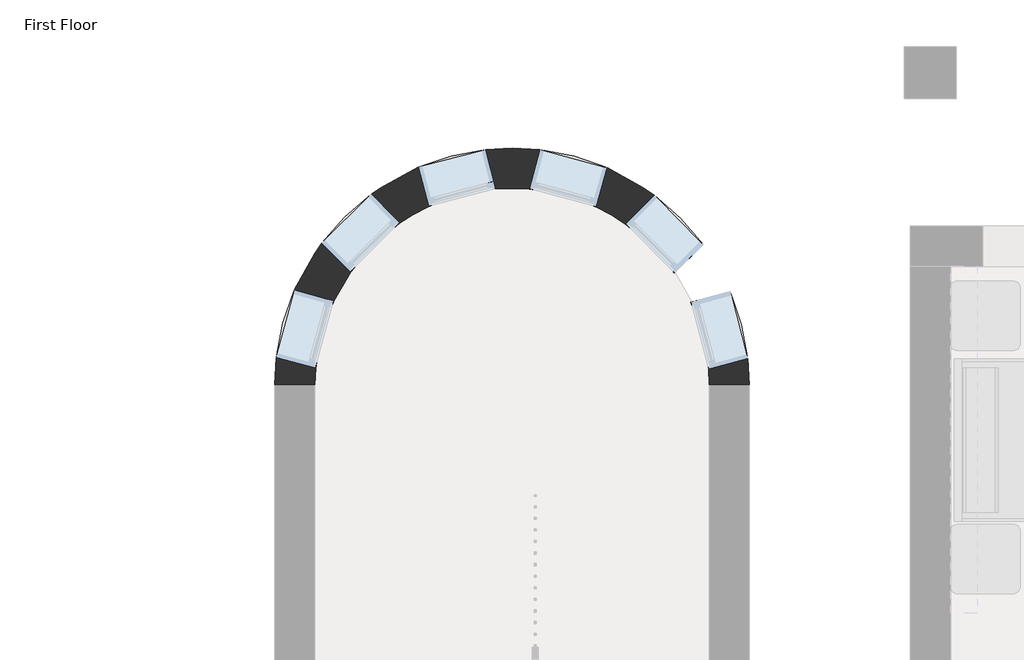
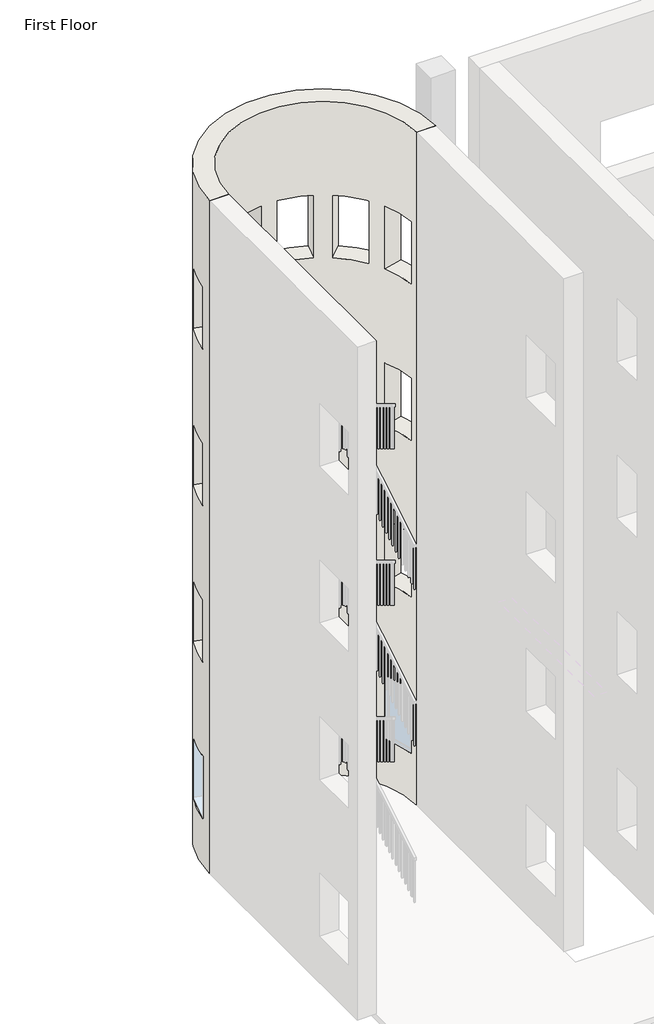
# One storey, part 4 of 8: 1 wall.
"""IFC4 building model written with IfcOpenShell, lengths in millimetres."""

from ifc_helpers import new_model, si_unit, frame, origin, place, context, project, spatial, polyline, circle_curve, element, save
from ifc_brep_helpers import plane_surface, cylinder_surface, revolved_surface, advanced_brep

model = new_model("IFC4")

# Units and contexts
model_context = context("Model", 3, world=origin())
ifc_project = project(units=[si_unit("LENGTHUNIT", "METRE", prefix="MILLI")], contexts=[model_context])

# Site, building, storey
site = spatial("IfcSite", under=ifc_project)
building = spatial("IfcBuilding", under=site)
storey = spatial("IfcBuildingStorey", under=building, Name="First Floor", Elevation=0.0)

# Wall
placement = place(None, origin())
element("IfcWall", 1, ObjectType="Exterior - Brick on Mtl. Stud", at=placement, inside=storey, context=model_context, shape_type="AdvancedBrep", body=[
    advanced_brep(
    [(-12980.9589563, 9227.0316867, 13106.4), (-17143.3839563, 9227.0316867, 13106.4), (-16790.9589563, 9227.0316867, 13106.4), (-13333.3839563, 9227.0316867, 13106.4), (-17143.3839563, 9227.0316867, 0.0), (-12980.9589563, 9227.0316867, 0.0), (-13333.3839563, 9227.0316867, 0.0), (-16790.9589563, 9227.0316867, 0.0), (-13149.9261748, 10048.4715527, 8229.6), (-13149.9261748, 10048.4715527, 7010.4), (-12993.9452701, 9459.1650812, 7010.4), (-12993.9452701, 9459.1650812, 8229.6), (-13816.8383973, 10894.5421191, 8229.6), (-13816.8383973, 10894.5421191, 7010.4), (-13387.1017356, 10462.1781965, 7010.4), (-13387.1017356, 10462.1781965, 8229.6), (-14817.4366072, 11293.8046118, 8229.6), (-14817.4366072, 11293.8046118, 7010.4), (-14229.0917799, 11134.234802, 7010.4), (-14229.0917799, 11134.234802, 8229.6), (-15883.6113224, 11139.2769682, 8229.6), (-15883.6113224, 11139.2769682, 7010.4), (-15294.3048508, 11295.2578729, 7010.4), (-15294.3048508, 11295.2578729, 8229.6), (-16729.6818887, 10472.3647457, 8229.6), (-16729.6818887, 10472.3647457, 7010.4), (-16297.3179661, 10902.1014074, 7010.4), (-16297.3179661, 10902.1014074, 8229.6), (-17128.9443814, 9471.7665358, 8229.6), (-17128.9443814, 9471.7665358, 7010.4), (-16969.3745716, 10060.1113631, 7010.4), (-16969.3745716, 10060.1113631, 8229.6), (-13149.9261748, 10048.4715527, 5181.6), (-13149.9261748, 10048.4715527, 3962.4), (-12993.9452701, 9459.1650812, 3962.4), (-12993.9452701, 9459.1650812, 5181.6), (-13816.8383973, 10894.5421191, 5181.6), (-13816.8383973, 10894.5421191, 3962.4), (-13387.1017356, 10462.1781965, 3962.4), (-13387.1017356, 10462.1781965, 5181.6), (-14817.4366072, 11293.8046118, 5181.6), (-14817.4366072, 11293.8046118, 3962.4), (-14229.0917799, 11134.234802, 3962.4), (-14229.0917799, 11134.234802, 5181.6), (-15883.6113224, 11139.2769682, 5181.6), (-15883.6113224, 11139.2769682, 3962.4), (-15294.3048508, 11295.2578729, 3962.4), (-15294.3048508, 11295.2578729, 5181.6), (-16729.6818887, 10472.3647457, 5181.6), (-16729.6818887, 10472.3647457, 3962.4), (-16297.3179661, 10902.1014074, 3962.4), (-16297.3179661, 10902.1014074, 5181.6), (-17128.9443814, 9471.7665358, 5181.6), (-17128.9443814, 9471.7665358, 3962.4), (-16969.3745716, 10060.1113631, 3962.4), (-16969.3745716, 10060.1113631, 5181.6), (-13149.9261748, 10048.4715527, 11277.6), (-13149.9261748, 10048.4715527, 10058.4), (-12993.9452701, 9459.1650812, 10058.4), (-12993.9452701, 9459.1650812, 11277.6), (-13816.8383973, 10894.5421191, 11277.6), (-13816.8383973, 10894.5421191, 10058.4), (-13387.1017356, 10462.1781965, 10058.4), (-13387.1017356, 10462.1781965, 11277.6), (-14817.4366072, 11293.8046118, 11277.6), (-14817.4366072, 11293.8046118, 10058.4), (-14229.0917799, 11134.234802, 10058.4), (-14229.0917799, 11134.234802, 11277.6), (-15883.6113224, 11139.2769682, 11277.6), (-15883.6113224, 11139.2769682, 10058.4), (-15294.3048508, 11295.2578729, 10058.4), (-15294.3048508, 11295.2578729, 11277.6), (-16729.6818887, 10472.3647457, 11277.6), (-16729.6818887, 10472.3647457, 10058.4), (-16297.3179661, 10902.1014074, 10058.4), (-16297.3179661, 10902.1014074, 11277.6), (-17128.9443814, 9471.7665358, 11277.6), (-17128.9443814, 9471.7665358, 10058.4), (-16969.3745716, 10060.1113631, 10058.4), (-16969.3745716, 10060.1113631, 11277.6), (-13149.9261748, 10048.4715527, 2133.6), (-13149.9261748, 10048.4715527, 914.4), (-12993.9452701, 9459.1650812, 914.4), (-12993.9452701, 9459.1650812, 2133.6), (-13816.8383973, 10894.5421191, 2133.6), (-13816.8383973, 10894.5421191, 914.4), (-13387.1017356, 10462.1781965, 914.4), (-13387.1017356, 10462.1781965, 2133.6), (-14817.4366072, 11293.8046118, 2133.6), (-14817.4366072, 11293.8046118, 914.4), (-14229.0917799, 11134.234802, 914.4), (-14229.0917799, 11134.234802, 2133.6), (-15883.6113224, 11139.2769682, 2133.6), (-15883.6113224, 11139.2769682, 914.4), (-15294.3048508, 11295.2578729, 914.4), (-15294.3048508, 11295.2578729, 2133.6), (-16729.6818887, 10472.3647457, 2133.6), (-16729.6818887, 10472.3647457, 914.4), (-16297.3179661, 10902.1014074, 914.4), (-16297.3179661, 10902.1014074, 2133.6), (-17128.9443814, 9471.7665358, 914.4), (-16969.3745716, 10060.1113631, 914.4), (-16969.3745716, 10060.1113631, 2133.6), (-17128.9443814, 9471.7665358, 2133.6), (-13495.1055834, 9957.1075528, 7010.4), (-13495.1055834, 9957.1075528, 8229.6), (-13339.1246787, 9367.8010813, 8229.6), (-13339.1246787, 9367.8010813, 7010.4), (-14070.090534, 10642.8288698, 7010.4), (-14070.090534, 10642.8288698, 8229.6), (-13640.3538723, 10210.4649472, 8229.6), (-13640.3538723, 10210.4649472, 7010.4), (-14910.9027666, 10949.188475, 7010.4), (-14910.9027666, 10949.188475, 8229.6), (-14322.5579393, 10789.6186653, 8229.6), (-14322.5579393, 10789.6186653, 7010.4), (-15792.2473224, 10794.0975596, 7010.4), (-15792.2473224, 10794.0975596, 8229.6), (-15202.9408509, 10950.0784643, 8229.6), (-15202.9408509, 10950.0784643, 7010.4), (-16477.9686395, 10219.112609, 7010.4), (-16477.9686395, 10219.112609, 8229.6), (-16045.6047169, 10648.8492707, 8229.6), (-16045.6047169, 10648.8492707, 7010.4), (-16784.3282447, 9378.3003764, 7010.4), (-16784.3282447, 9378.3003764, 8229.6), (-16624.7584349, 9966.6452037, 8229.6), (-16624.7584349, 9966.6452037, 7010.4), (-13495.1055834, 9957.1075528, 3962.4), (-13495.1055834, 9957.1075528, 5181.6), (-13339.1246787, 9367.8010813, 5181.6), (-13339.1246787, 9367.8010813, 3962.4), (-14070.090534, 10642.8288698, 3962.4), (-14070.090534, 10642.8288698, 5181.6), (-13640.3538723, 10210.4649472, 5181.6), (-13640.3538723, 10210.4649472, 3962.4), (-14910.9027666, 10949.188475, 3962.4), (-14910.9027666, 10949.188475, 5181.6), (-14322.5579393, 10789.6186653, 5181.6), (-14322.5579393, 10789.6186653, 3962.4), (-15792.2473224, 10794.0975596, 3962.4), (-15792.2473224, 10794.0975596, 5181.6), (-15202.9408509, 10950.0784643, 5181.6), (-15202.9408509, 10950.0784643, 3962.4), (-16477.9686395, 10219.112609, 3962.4), (-16477.9686395, 10219.112609, 5181.6), (-16045.6047169, 10648.8492707, 5181.6), (-16045.6047169, 10648.8492707, 3962.4), (-16784.3282447, 9378.3003764, 3962.4), (-16784.3282447, 9378.3003764, 5181.6), (-16624.7584349, 9966.6452037, 5181.6), (-16624.7584349, 9966.6452037, 3962.4), (-13495.1055834, 9957.1075528, 10058.4), (-13495.1055834, 9957.1075528, 11277.6), (-13339.1246787, 9367.8010813, 11277.6), (-13339.1246787, 9367.8010813, 10058.4), (-14070.090534, 10642.8288698, 10058.4), (-14070.090534, 10642.8288698, 11277.6), (-13640.3538723, 10210.4649472, 11277.6), (-13640.3538723, 10210.4649472, 10058.4), (-14910.9027666, 10949.188475, 10058.4), (-14910.9027666, 10949.188475, 11277.6), (-14322.5579393, 10789.6186653, 11277.6), (-14322.5579393, 10789.6186653, 10058.4), (-15792.2473224, 10794.0975596, 10058.4), (-15792.2473224, 10794.0975596, 11277.6), (-15202.9408509, 10950.0784643, 11277.6), (-15202.9408509, 10950.0784643, 10058.4), (-16477.9686395, 10219.112609, 10058.4), (-16477.9686395, 10219.112609, 11277.6), (-16045.6047169, 10648.8492707, 11277.6), (-16045.6047169, 10648.8492707, 10058.4), (-16784.3282447, 9378.3003764, 10058.4), (-16784.3282447, 9378.3003764, 11277.6), (-16624.7584349, 9966.6452037, 11277.6), (-16624.7584349, 9966.6452037, 10058.4), (-13495.1055834, 9957.1075528, 914.4), (-13495.1055834, 9957.1075528, 2133.6), (-13339.1246787, 9367.8010813, 2133.6), (-13339.1246787, 9367.8010813, 914.4), (-14070.090534, 10642.8288698, 914.4), (-14070.090534, 10642.8288698, 2133.6), (-13640.3538723, 10210.4649472, 2133.6), (-13640.3538723, 10210.4649472, 914.4), (-14910.9027666, 10949.188475, 914.4), (-14910.9027666, 10949.188475, 2133.6), (-14322.5579393, 10789.6186653, 2133.6), (-14322.5579393, 10789.6186653, 914.4), (-15792.2473224, 10794.0975596, 914.4), (-15792.2473224, 10794.0975596, 2133.6), (-15202.9408509, 10950.0784643, 2133.6), (-15202.9408509, 10950.0784643, 914.4), (-16477.9686395, 10219.112609, 914.4), (-16477.9686395, 10219.112609, 2133.6), (-16045.6047169, 10648.8492707, 2133.6), (-16045.6047169, 10648.8492707, 914.4), (-16624.7584349, 9966.6452037, 914.4), (-16784.3282447, 9378.3003764, 914.4), (-16784.3282447, 9378.3003764, 2133.6), (-16624.7584349, 9966.6452037, 2133.6)],
    [
        (0, 1, circle_curve(frame((-15062.1714563, 9227.0316867, 13106.4), z_axis=(0.0, 0.0, 1.0), x_axis=(1.0, 0.0, 0.0)), 2081.2125)),
        (1, 2),
        (2, 3, circle_curve(frame((-15062.1714563, 9227.0316867, 13106.4), z_axis=(0.0, 0.0, -1.0), x_axis=(1.0, 0.0, 0.0)), 1728.7875)),
        (3, 0),
        (4, 5, circle_curve(frame((-15062.1714563, 9227.0316867, 0.0), z_axis=(0.0, 0.0, -1.0), x_axis=(1.0, 0.0, 0.0)), 2081.2125)),
        (5, 6),
        (6, 7, circle_curve(frame((-15062.1714563, 9227.0316867, 0.0), z_axis=(0.0, 0.0, 1.0), x_axis=(1.0, 0.0, 0.0)), 1728.7875)),
        (7, 4),
        (0, 5),
        (4, 1),
        (8, 9),
        (9, 10, circle_curve(frame((-15062.1714563, 9227.0316867, 7010.4), z_axis=(0.0, 0.0, -1.0), x_axis=(1.0, 0.0, 0.0)), 2081.2125)),
        (10, 11),
        (11, 8, circle_curve(frame((-15062.1714563, 9227.0316867, 8229.6), z_axis=(0.0, 0.0, 1.0), x_axis=(1.0, 0.0, 0.0)), 2081.2125)),
        (12, 13),
        (13, 14, circle_curve(frame((-15062.1714563, 9227.0316867, 7010.4), z_axis=(0.0, 0.0, -1.0), x_axis=(1.0, 0.0, 0.0)), 2081.2125)),
        (14, 15),
        (15, 12, circle_curve(frame((-15062.1714563, 9227.0316867, 8229.6), z_axis=(0.0, 0.0, 1.0), x_axis=(1.0, 0.0, 0.0)), 2081.2125)),
        (16, 17),
        (17, 18, circle_curve(frame((-15062.1714563, 9227.0316867, 7010.4), z_axis=(0.0, 0.0, -1.0), x_axis=(1.0, 0.0, 0.0)), 2081.2125)),
        (18, 19),
        (19, 16, circle_curve(frame((-15062.1714563, 9227.0316867, 8229.6), z_axis=(0.0, 0.0, 1.0), x_axis=(1.0, 0.0, 0.0)), 2081.2125)),
        (20, 21),
        (21, 22, circle_curve(frame((-15062.1714563, 9227.0316867, 7010.4), z_axis=(0.0, 0.0, -1.0), x_axis=(1.0, 0.0, 0.0)), 2081.2125)),
        (22, 23),
        (23, 20, circle_curve(frame((-15062.1714563, 9227.0316867, 8229.6), z_axis=(0.0, 0.0, 1.0), x_axis=(1.0, 0.0, 0.0)), 2081.2125)),
        (24, 25),
        (25, 26, circle_curve(frame((-15062.1714563, 9227.0316867, 7010.4), z_axis=(0.0, 0.0, -1.0), x_axis=(1.0, 0.0, 0.0)), 2081.2125)),
        (26, 27),
        (27, 24, circle_curve(frame((-15062.1714563, 9227.0316867, 8229.6), z_axis=(0.0, 0.0, 1.0), x_axis=(1.0, 0.0, 0.0)), 2081.2125)),
        (28, 29),
        (29, 30, circle_curve(frame((-15062.1714563, 9227.0316867, 7010.4), z_axis=(0.0, 0.0, -1.0), x_axis=(1.0, 0.0, 0.0)), 2081.2125)),
        (30, 31),
        (31, 28, circle_curve(frame((-15062.1714563, 9227.0316867, 8229.6), z_axis=(0.0, 0.0, 1.0), x_axis=(1.0, 0.0, 0.0)), 2081.2125)),
        (32, 33),
        (33, 34, circle_curve(frame((-15062.1714563, 9227.0316867, 3962.4), z_axis=(0.0, 0.0, -1.0), x_axis=(1.0, 0.0, 0.0)), 2081.2125)),
        (34, 35),
        (35, 32, circle_curve(frame((-15062.1714563, 9227.0316867, 5181.6), z_axis=(0.0, 0.0, 1.0), x_axis=(1.0, 0.0, 0.0)), 2081.2125)),
        (36, 37),
        (37, 38, circle_curve(frame((-15062.1714563, 9227.0316867, 3962.4), z_axis=(0.0, 0.0, -1.0), x_axis=(1.0, 0.0, 0.0)), 2081.2125)),
        (38, 39),
        (39, 36, circle_curve(frame((-15062.1714563, 9227.0316867, 5181.6), z_axis=(0.0, 0.0, 1.0), x_axis=(1.0, 0.0, 0.0)), 2081.2125)),
        (40, 41),
        (41, 42, circle_curve(frame((-15062.1714563, 9227.0316867, 3962.4), z_axis=(0.0, 0.0, -1.0), x_axis=(1.0, 0.0, 0.0)), 2081.2125)),
        (42, 43),
        (43, 40, circle_curve(frame((-15062.1714563, 9227.0316867, 5181.6), z_axis=(0.0, 0.0, 1.0), x_axis=(1.0, 0.0, 0.0)), 2081.2125)),
        (44, 45),
        (45, 46, circle_curve(frame((-15062.1714563, 9227.0316867, 3962.4), z_axis=(0.0, 0.0, -1.0), x_axis=(1.0, 0.0, 0.0)), 2081.2125)),
        (46, 47),
        (47, 44, circle_curve(frame((-15062.1714563, 9227.0316867, 5181.6), z_axis=(0.0, 0.0, 1.0), x_axis=(1.0, 0.0, 0.0)), 2081.2125)),
        (48, 49),
        (49, 50, circle_curve(frame((-15062.1714563, 9227.0316867, 3962.4), z_axis=(0.0, 0.0, -1.0), x_axis=(1.0, 0.0, 0.0)), 2081.2125)),
        (50, 51),
        (51, 48, circle_curve(frame((-15062.1714563, 9227.0316867, 5181.6), z_axis=(0.0, 0.0, 1.0), x_axis=(1.0, 0.0, 0.0)), 2081.2125)),
        (52, 53),
        (53, 54, circle_curve(frame((-15062.1714563, 9227.0316867, 3962.4), z_axis=(0.0, 0.0, -1.0), x_axis=(1.0, 0.0, 0.0)), 2081.2125)),
        (54, 55),
        (55, 52, circle_curve(frame((-15062.1714563, 9227.0316867, 5181.6), z_axis=(0.0, 0.0, 1.0), x_axis=(1.0, 0.0, 0.0)), 2081.2125)),
        (56, 57),
        (57, 58, circle_curve(frame((-15062.1714563, 9227.0316867, 10058.4), z_axis=(0.0, 0.0, -1.0), x_axis=(1.0, 0.0, 0.0)), 2081.2125)),
        (58, 59),
        (59, 56, circle_curve(frame((-15062.1714563, 9227.0316867, 11277.6), z_axis=(0.0, 0.0, 1.0), x_axis=(1.0, 0.0, 0.0)), 2081.2125)),
        (60, 61),
        (61, 62, circle_curve(frame((-15062.1714563, 9227.0316867, 10058.4), z_axis=(0.0, 0.0, -1.0), x_axis=(1.0, 0.0, 0.0)), 2081.2125)),
        (62, 63),
        (63, 60, circle_curve(frame((-15062.1714563, 9227.0316867, 11277.6), z_axis=(0.0, 0.0, 1.0), x_axis=(1.0, 0.0, 0.0)), 2081.2125)),
        (64, 65),
        (65, 66, circle_curve(frame((-15062.1714563, 9227.0316867, 10058.4), z_axis=(0.0, 0.0, -1.0), x_axis=(1.0, 0.0, 0.0)), 2081.2125)),
        (66, 67),
        (67, 64, circle_curve(frame((-15062.1714563, 9227.0316867, 11277.6), z_axis=(0.0, 0.0, 1.0), x_axis=(1.0, 0.0, 0.0)), 2081.2125)),
        (68, 69),
        (69, 70, circle_curve(frame((-15062.1714563, 9227.0316867, 10058.4), z_axis=(0.0, 0.0, -1.0), x_axis=(1.0, 0.0, 0.0)), 2081.2125)),
        (70, 71),
        (71, 68, circle_curve(frame((-15062.1714563, 9227.0316867, 11277.6), z_axis=(0.0, 0.0, 1.0), x_axis=(1.0, 0.0, 0.0)), 2081.2125)),
        (72, 73),
        (73, 74, circle_curve(frame((-15062.1714563, 9227.0316867, 10058.4), z_axis=(0.0, 0.0, -1.0), x_axis=(1.0, 0.0, 0.0)), 2081.2125)),
        (74, 75),
        (75, 72, circle_curve(frame((-15062.1714563, 9227.0316867, 11277.6), z_axis=(0.0, 0.0, 1.0), x_axis=(1.0, 0.0, 0.0)), 2081.2125)),
        (76, 77),
        (77, 78, circle_curve(frame((-15062.1714563, 9227.0316867, 10058.4), z_axis=(0.0, 0.0, -1.0), x_axis=(1.0, 0.0, 0.0)), 2081.2125)),
        (78, 79),
        (79, 76, circle_curve(frame((-15062.1714563, 9227.0316867, 11277.6), z_axis=(0.0, 0.0, 1.0), x_axis=(1.0, 0.0, 0.0)), 2081.2125)),
        (80, 81),
        (81, 82, circle_curve(frame((-15062.1714563, 9227.0316867, 914.4), z_axis=(0.0, 0.0, -1.0), x_axis=(1.0, 0.0, 0.0)), 2081.2125)),
        (82, 83),
        (83, 80, circle_curve(frame((-15062.1714563, 9227.0316867, 2133.6), z_axis=(0.0, 0.0, 1.0), x_axis=(1.0, 0.0, 0.0)), 2081.2125)),
        (84, 85),
        (85, 86, circle_curve(frame((-15062.1714563, 9227.0316867, 914.4), z_axis=(0.0, 0.0, -1.0), x_axis=(1.0, 0.0, 0.0)), 2081.2125)),
        (86, 87),
        (87, 84, circle_curve(frame((-15062.1714563, 9227.0316867, 2133.6), z_axis=(0.0, 0.0, 1.0), x_axis=(1.0, 0.0, 0.0)), 2081.2125)),
        (88, 89),
        (89, 90, circle_curve(frame((-15062.1714563, 9227.0316867, 914.4), z_axis=(0.0, 0.0, -1.0), x_axis=(1.0, 0.0, 0.0)), 2081.2125)),
        (90, 91),
        (91, 88, circle_curve(frame((-15062.1714563, 9227.0316867, 2133.6), z_axis=(0.0, 0.0, 1.0), x_axis=(1.0, 0.0, 0.0)), 2081.2125)),
        (92, 93),
        (93, 94, circle_curve(frame((-15062.1714563, 9227.0316867, 914.4), z_axis=(0.0, 0.0, -1.0), x_axis=(1.0, 0.0, 0.0)), 2081.2125)),
        (94, 95),
        (95, 92, circle_curve(frame((-15062.1714563, 9227.0316867, 2133.6), z_axis=(0.0, 0.0, 1.0), x_axis=(1.0, 0.0, 0.0)), 2081.2125)),
        (96, 97),
        (97, 98, circle_curve(frame((-15062.1714563, 9227.0316867, 914.4), z_axis=(0.0, 0.0, -1.0), x_axis=(1.0, 0.0, 0.0)), 2081.2125)),
        (98, 99),
        (99, 96, circle_curve(frame((-15062.1714563, 9227.0316867, 2133.6), z_axis=(0.0, 0.0, 1.0), x_axis=(1.0, 0.0, 0.0)), 2081.2125)),
        (100, 101, circle_curve(frame((-15062.1714563, 9227.0316867, 914.4), z_axis=(0.0, 0.0, -1.0), x_axis=(1.0, 0.0, 0.0)), 2081.2125)),
        (101, 102),
        (102, 103, circle_curve(frame((-15062.1714563, 9227.0316867, 2133.6), z_axis=(0.0, 0.0, 1.0), x_axis=(1.0, 0.0, 0.0)), 2081.2125)),
        (103, 100),
        (7, 2),
        (6, 3),
        (104, 105),
        (105, 106, circle_curve(frame((-15062.1714563, 9227.0316867, 8229.6), z_axis=(0.0, 0.0, -1.0), x_axis=(1.0, 0.0, 0.0)), 1728.7875)),
        (106, 107),
        (107, 104, circle_curve(frame((-15062.1714563, 9227.0316867, 7010.4), z_axis=(0.0, 0.0, 1.0), x_axis=(1.0, 0.0, 0.0)), 1728.7875)),
        (108, 109),
        (109, 110, circle_curve(frame((-15062.1714563, 9227.0316867, 8229.6), z_axis=(0.0, 0.0, -1.0), x_axis=(1.0, 0.0, 0.0)), 1728.7875)),
        (110, 111),
        (111, 108, circle_curve(frame((-15062.1714563, 9227.0316867, 7010.4), z_axis=(0.0, 0.0, 1.0), x_axis=(1.0, 0.0, 0.0)), 1728.7875)),
        (112, 113),
        (113, 114, circle_curve(frame((-15062.1714563, 9227.0316867, 8229.6), z_axis=(0.0, 0.0, -1.0), x_axis=(1.0, 0.0, 0.0)), 1728.7875)),
        (114, 115),
        (115, 112, circle_curve(frame((-15062.1714563, 9227.0316867, 7010.4), z_axis=(0.0, 0.0, 1.0), x_axis=(1.0, 0.0, 0.0)), 1728.7875)),
        (116, 117),
        (117, 118, circle_curve(frame((-15062.1714563, 9227.0316867, 8229.6), z_axis=(0.0, 0.0, -1.0), x_axis=(1.0, 0.0, 0.0)), 1728.7875)),
        (118, 119),
        (119, 116, circle_curve(frame((-15062.1714563, 9227.0316867, 7010.4), z_axis=(0.0, 0.0, 1.0), x_axis=(1.0, 0.0, 0.0)), 1728.7875)),
        (120, 121),
        (121, 122, circle_curve(frame((-15062.1714563, 9227.0316867, 8229.6), z_axis=(0.0, 0.0, -1.0), x_axis=(1.0, 0.0, 0.0)), 1728.7875)),
        (122, 123),
        (123, 120, circle_curve(frame((-15062.1714563, 9227.0316867, 7010.4), z_axis=(0.0, 0.0, 1.0), x_axis=(1.0, 0.0, 0.0)), 1728.7875)),
        (124, 125),
        (125, 126, circle_curve(frame((-15062.1714563, 9227.0316867, 8229.6), z_axis=(0.0, 0.0, -1.0), x_axis=(1.0, 0.0, 0.0)), 1728.7875)),
        (126, 127),
        (127, 124, circle_curve(frame((-15062.1714563, 9227.0316867, 7010.4), z_axis=(0.0, 0.0, 1.0), x_axis=(1.0, 0.0, 0.0)), 1728.7875)),
        (128, 129),
        (129, 130, circle_curve(frame((-15062.1714563, 9227.0316867, 5181.6), z_axis=(0.0, 0.0, -1.0), x_axis=(1.0, 0.0, 0.0)), 1728.7875)),
        (130, 131),
        (131, 128, circle_curve(frame((-15062.1714563, 9227.0316867, 3962.4), z_axis=(0.0, 0.0, 1.0), x_axis=(1.0, 0.0, 0.0)), 1728.7875)),
        (132, 133),
        (133, 134, circle_curve(frame((-15062.1714563, 9227.0316867, 5181.6), z_axis=(0.0, 0.0, -1.0), x_axis=(1.0, 0.0, 0.0)), 1728.7875)),
        (134, 135),
        (135, 132, circle_curve(frame((-15062.1714563, 9227.0316867, 3962.4), z_axis=(0.0, 0.0, 1.0), x_axis=(1.0, 0.0, 0.0)), 1728.7875)),
        (136, 137),
        (137, 138, circle_curve(frame((-15062.1714563, 9227.0316867, 5181.6), z_axis=(0.0, 0.0, -1.0), x_axis=(1.0, 0.0, 0.0)), 1728.7875)),
        (138, 139),
        (139, 136, circle_curve(frame((-15062.1714563, 9227.0316867, 3962.4), z_axis=(0.0, 0.0, 1.0), x_axis=(1.0, 0.0, 0.0)), 1728.7875)),
        (140, 141),
        (141, 142, circle_curve(frame((-15062.1714563, 9227.0316867, 5181.6), z_axis=(0.0, 0.0, -1.0), x_axis=(1.0, 0.0, 0.0)), 1728.7875)),
        (142, 143),
        (143, 140, circle_curve(frame((-15062.1714563, 9227.0316867, 3962.4), z_axis=(0.0, 0.0, 1.0), x_axis=(1.0, 0.0, 0.0)), 1728.7875)),
        (144, 145),
        (145, 146, circle_curve(frame((-15062.1714563, 9227.0316867, 5181.6), z_axis=(0.0, 0.0, -1.0), x_axis=(1.0, 0.0, 0.0)), 1728.7875)),
        (146, 147),
        (147, 144, circle_curve(frame((-15062.1714563, 9227.0316867, 3962.4), z_axis=(0.0, 0.0, 1.0), x_axis=(1.0, 0.0, 0.0)), 1728.7875)),
        (148, 149),
        (149, 150, circle_curve(frame((-15062.1714563, 9227.0316867, 5181.6), z_axis=(0.0, 0.0, -1.0), x_axis=(1.0, 0.0, 0.0)), 1728.7875)),
        (150, 151),
        (151, 148, circle_curve(frame((-15062.1714563, 9227.0316867, 3962.4), z_axis=(0.0, 0.0, 1.0), x_axis=(1.0, 0.0, 0.0)), 1728.7875)),
        (152, 153),
        (153, 154, circle_curve(frame((-15062.1714563, 9227.0316867, 11277.6), z_axis=(0.0, 0.0, -1.0), x_axis=(1.0, 0.0, 0.0)), 1728.7875)),
        (154, 155),
        (155, 152, circle_curve(frame((-15062.1714563, 9227.0316867, 10058.4), z_axis=(0.0, 0.0, 1.0), x_axis=(1.0, 0.0, 0.0)), 1728.7875)),
        (156, 157),
        (157, 158, circle_curve(frame((-15062.1714563, 9227.0316867, 11277.6), z_axis=(0.0, 0.0, -1.0), x_axis=(1.0, 0.0, 0.0)), 1728.7875)),
        (158, 159),
        (159, 156, circle_curve(frame((-15062.1714563, 9227.0316867, 10058.4), z_axis=(0.0, 0.0, 1.0), x_axis=(1.0, 0.0, 0.0)), 1728.7875)),
        (160, 161),
        (161, 162, circle_curve(frame((-15062.1714563, 9227.0316867, 11277.6), z_axis=(0.0, 0.0, -1.0), x_axis=(1.0, 0.0, 0.0)), 1728.7875)),
        (162, 163),
        (163, 160, circle_curve(frame((-15062.1714563, 9227.0316867, 10058.4), z_axis=(0.0, 0.0, 1.0), x_axis=(1.0, 0.0, 0.0)), 1728.7875)),
        (164, 165),
        (165, 166, circle_curve(frame((-15062.1714563, 9227.0316867, 11277.6), z_axis=(0.0, 0.0, -1.0), x_axis=(1.0, 0.0, 0.0)), 1728.7875)),
        (166, 167),
        (167, 164, circle_curve(frame((-15062.1714563, 9227.0316867, 10058.4), z_axis=(0.0, 0.0, 1.0), x_axis=(1.0, 0.0, 0.0)), 1728.7875)),
        (168, 169),
        (169, 170, circle_curve(frame((-15062.1714563, 9227.0316867, 11277.6), z_axis=(0.0, 0.0, -1.0), x_axis=(1.0, 0.0, 0.0)), 1728.7875)),
        (170, 171),
        (171, 168, circle_curve(frame((-15062.1714563, 9227.0316867, 10058.4), z_axis=(0.0, 0.0, 1.0), x_axis=(1.0, 0.0, 0.0)), 1728.7875)),
        (172, 173),
        (173, 174, circle_curve(frame((-15062.1714563, 9227.0316867, 11277.6), z_axis=(0.0, 0.0, -1.0), x_axis=(1.0, 0.0, 0.0)), 1728.7875)),
        (174, 175),
        (175, 172, circle_curve(frame((-15062.1714563, 9227.0316867, 10058.4), z_axis=(0.0, 0.0, 1.0), x_axis=(1.0, 0.0, 0.0)), 1728.7875)),
        (176, 177),
        (177, 178, circle_curve(frame((-15062.1714563, 9227.0316867, 2133.6), z_axis=(0.0, 0.0, -1.0), x_axis=(1.0, 0.0, 0.0)), 1728.7875)),
        (178, 179),
        (179, 176, circle_curve(frame((-15062.1714563, 9227.0316867, 914.4), z_axis=(0.0, 0.0, 1.0), x_axis=(1.0, 0.0, 0.0)), 1728.7875)),
        (180, 181),
        (181, 182, circle_curve(frame((-15062.1714563, 9227.0316867, 2133.6), z_axis=(0.0, 0.0, -1.0), x_axis=(1.0, 0.0, 0.0)), 1728.7875)),
        (182, 183),
        (183, 180, circle_curve(frame((-15062.1714563, 9227.0316867, 914.4), z_axis=(0.0, 0.0, 1.0), x_axis=(1.0, 0.0, 0.0)), 1728.7875)),
        (184, 185),
        (185, 186, circle_curve(frame((-15062.1714563, 9227.0316867, 2133.6), z_axis=(0.0, 0.0, -1.0), x_axis=(1.0, 0.0, 0.0)), 1728.7875)),
        (186, 187),
        (187, 184, circle_curve(frame((-15062.1714563, 9227.0316867, 914.4), z_axis=(0.0, 0.0, 1.0), x_axis=(1.0, 0.0, 0.0)), 1728.7875)),
        (188, 189),
        (189, 190, circle_curve(frame((-15062.1714563, 9227.0316867, 2133.6), z_axis=(0.0, 0.0, -1.0), x_axis=(1.0, 0.0, 0.0)), 1728.7875)),
        (190, 191),
        (191, 188, circle_curve(frame((-15062.1714563, 9227.0316867, 914.4), z_axis=(0.0, 0.0, 1.0), x_axis=(1.0, 0.0, 0.0)), 1728.7875)),
        (192, 193),
        (193, 194, circle_curve(frame((-15062.1714563, 9227.0316867, 2133.6), z_axis=(0.0, 0.0, -1.0), x_axis=(1.0, 0.0, 0.0)), 1728.7875)),
        (194, 195),
        (195, 192, circle_curve(frame((-15062.1714563, 9227.0316867, 914.4), z_axis=(0.0, 0.0, 1.0), x_axis=(1.0, 0.0, 0.0)), 1728.7875)),
        (196, 197, circle_curve(frame((-15062.1714563, 9227.0316867, 914.4), z_axis=(0.0, 0.0, 1.0), x_axis=(1.0, 0.0, 0.0)), 1728.7875)),
        (197, 198),
        (198, 199, circle_curve(frame((-15062.1714563, 9227.0316867, 2133.6), z_axis=(0.0, 0.0, -1.0), x_axis=(1.0, 0.0, 0.0)), 1728.7875)),
        (199, 196),
        (8, 105),
        (104, 9),
        (107, 10),
        (106, 11),
        (12, 109),
        (108, 13),
        (111, 14),
        (110, 15),
        (16, 113),
        (112, 17),
        (115, 18),
        (114, 19),
        (20, 117),
        (116, 21),
        (119, 22),
        (118, 23),
        (24, 121),
        (120, 25),
        (123, 26),
        (122, 27),
        (28, 125),
        (124, 29),
        (127, 30),
        (126, 31),
        (32, 129),
        (128, 33),
        (131, 34),
        (130, 35),
        (36, 133),
        (132, 37),
        (135, 38),
        (134, 39),
        (40, 137),
        (136, 41),
        (139, 42),
        (138, 43),
        (44, 141),
        (140, 45),
        (143, 46),
        (142, 47),
        (48, 145),
        (144, 49),
        (147, 50),
        (146, 51),
        (52, 149),
        (148, 53),
        (151, 54),
        (150, 55),
        (56, 153),
        (152, 57),
        (155, 58),
        (154, 59),
        (60, 157),
        (156, 61),
        (159, 62),
        (158, 63),
        (64, 161),
        (160, 65),
        (163, 66),
        (162, 67),
        (68, 165),
        (164, 69),
        (167, 70),
        (166, 71),
        (72, 169),
        (168, 73),
        (171, 74),
        (170, 75),
        (76, 173),
        (172, 77),
        (175, 78),
        (174, 79),
        (80, 177),
        (176, 81),
        (179, 82),
        (178, 83),
        (84, 181),
        (180, 85),
        (183, 86),
        (182, 87),
        (88, 185),
        (184, 89),
        (187, 90),
        (186, 91),
        (92, 189),
        (188, 93),
        (191, 94),
        (190, 95),
        (96, 193),
        (192, 97),
        (195, 98),
        (194, 99),
        (197, 100),
        (103, 198),
        (196, 101),
        (199, 102),
    ],
    [
        plane_surface(frame((-12980.9589563, 9227.0316867, 13106.4), z_axis=(0.0, 0.0, 1.0), x_axis=(0.0, 1.0, 0.0))),
        plane_surface(frame((-12980.9589563, 9227.0316867, 0.0), z_axis=(0.0, 0.0, -1.0), x_axis=(0.0, -1.0, 0.0))),
        cylinder_surface(frame((-15062.1714563, 9227.0316867, 0.0), z_axis=(0.0, 0.0, 1.0), x_axis=(1.0, 0.0, 0.0)), 2081.2125),
        plane_surface(frame((-17143.3839563, 9227.0316867, 13106.4), z_axis=(0.0, -1.0, 0.0), x_axis=(0.0, 0.0, -1.0))),
        revolved_surface(polyline([(-13333.3839563, 9227.0316867, 0.0), (-13333.3839563, 9227.0316867, 13106.4)]), (-15062.1714563, 9227.0316867, 0.0), (0.0, 0.0, -1.0)),
        plane_surface(frame((-13333.3839563, 9227.0316867, 13106.4), z_axis=(0.0, -1.0, 0.0), x_axis=(0.0, 0.0, -1.0))),
        plane_surface(frame((-13149.9261748, 10048.4715527, 8229.6), z_axis=(0.25587418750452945, -0.9667100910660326, 0.0), x_axis=(-0.9667100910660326, -0.25587418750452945, 0.0))),
        plane_surface(frame((-13149.9261748, 10048.4715527, 7010.4), z_axis=(0.0, 0.0, 1.0), x_axis=(-0.9667100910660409, -0.25587418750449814, 0.0))),
        plane_surface(frame((-12993.9452701, 9459.1650812, 7010.4), z_axis=(-0.2558741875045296, 0.9667100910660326, 0.0), x_axis=(-0.9667100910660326, -0.2558741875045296, 0.0))),
        plane_surface(frame((-12993.9452701, 9459.1650812, 8229.6), z_axis=(0.0, 0.0, -1.0000000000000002), x_axis=(-0.9667100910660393, -0.2558741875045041, 0.0))),
        plane_surface(frame((-13816.8383973, 10894.5421191, 8229.6), z_axis=(0.7049485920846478, -0.7092584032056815, 0.0), x_axis=(-0.7092584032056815, -0.7049485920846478, 0.0))),
        plane_surface(frame((-13816.8383973, 10894.5421191, 7010.4), z_axis=(0.0, 0.0, 1.0000000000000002), x_axis=(-0.7092584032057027, -0.7049485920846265, 0.0))),
        plane_surface(frame((-13387.1017356, 10462.1781965, 7010.4), z_axis=(-0.7049485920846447, 0.7092584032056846, 0.0), x_axis=(-0.7092584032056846, -0.7049485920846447, 0.0))),
        plane_surface(frame((-13387.1017356, 10462.1781965, 8229.6), z_axis=(0.0, 0.0, -1.0000000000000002), x_axis=(-0.7092584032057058, -0.7049485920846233, 0.0))),
        plane_surface(frame((-14817.4366072, 11293.8046118, 8229.6), z_axis=(0.9651325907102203, -0.2617614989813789, 0.0), x_axis=(-0.2617614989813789, -0.9651325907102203, 0.0))),
        plane_surface(frame((-14817.4366072, 11293.8046118, 7010.4), z_axis=(0.0, 0.0, 1.0), x_axis=(-0.26176149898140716, -0.9651325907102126, 0.0))),
        plane_surface(frame((-14229.0917799, 11134.234802, 7010.4), z_axis=(-0.965132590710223, 0.2617614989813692, 0.0), x_axis=(-0.2617614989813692, -0.965132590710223, 0.0))),
        plane_surface(frame((-14229.0917799, 11134.234802, 8229.6), z_axis=(0.0, 0.0, -1.0), x_axis=(-0.26176149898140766, -0.9651325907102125, 0.0))),
        plane_surface(frame((-15883.6113224, 11139.2769682, 8229.6), z_axis=(0.9667100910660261, 0.2558741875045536, 0.0), x_axis=(0.2558741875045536, -0.9667100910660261, 0.0))),
        plane_surface(frame((-15883.6113224, 11139.2769682, 7010.4), z_axis=(0.0, 0.0, 1.0), x_axis=(0.25587418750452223, -0.9667100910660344, 0.0))),
        plane_surface(frame((-15294.3048508, 11295.2578729, 7010.4), z_axis=(-0.9667100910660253, -0.2558741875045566, 0.0), x_axis=(0.2558741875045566, -0.9667100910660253, 0.0))),
        plane_surface(frame((-15294.3048508, 11295.2578729, 8229.6), z_axis=(0.0, 0.0, -1.0), x_axis=(0.2558741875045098, -0.9667100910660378, 0.0))),
        plane_surface(frame((-16729.6818887, 10472.3647457, 8229.6), z_axis=(0.7092584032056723, 0.7049485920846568, 0.0), x_axis=(0.7049485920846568, -0.7092584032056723, 0.0))),
        plane_surface(frame((-16729.6818887, 10472.3647457, 7010.4), z_axis=(0.0, 0.0, 1.0), x_axis=(0.7049485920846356, -0.7092584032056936, 0.0))),
        plane_surface(frame((-16297.3179661, 10902.1014074, 7010.4), z_axis=(-0.7092584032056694, -0.7049485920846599, 0.0), x_axis=(0.7049485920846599, -0.7092584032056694, 0.0))),
        plane_surface(frame((-16297.3179661, 10902.1014074, 8229.6), z_axis=(0.0, 0.0, -1.0000000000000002), x_axis=(0.7049485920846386, -0.7092584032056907, 0.0))),
        plane_surface(frame((-17128.9443814, 9471.7665358, 8229.6), z_axis=(0.2617614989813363, 0.9651325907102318, 0.0), x_axis=(0.9651325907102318, -0.2617614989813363, 0.0))),
        plane_surface(frame((-17128.9443814, 9471.7665358, 7010.4), z_axis=(0.0, 0.0, 1.0), x_axis=(0.965132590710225, -0.26176149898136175, 0.0))),
        plane_surface(frame((-16969.3745716, 10060.1113631, 7010.4), z_axis=(-0.2617614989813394, -0.965132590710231, 0.0), x_axis=(0.965132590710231, -0.2617614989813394, 0.0))),
        plane_surface(frame((-16969.3745716, 10060.1113631, 8229.6), z_axis=(0.0, 0.0, -1.0), x_axis=(0.9651325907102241, -0.261761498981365, 0.0))),
        plane_surface(frame((-13149.9261748, 10048.4715527, 5181.6), z_axis=(0.25587418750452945, -0.9667100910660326, 0.0), x_axis=(-0.9667100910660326, -0.25587418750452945, 0.0))),
        plane_surface(frame((-13149.9261748, 10048.4715527, 3962.4), z_axis=(0.0, 0.0, 1.0), x_axis=(-0.9667100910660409, -0.25587418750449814, 0.0))),
        plane_surface(frame((-12993.9452701, 9459.1650812, 3962.4), z_axis=(-0.2558741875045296, 0.9667100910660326, 0.0), x_axis=(-0.9667100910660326, -0.2558741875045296, 0.0))),
        plane_surface(frame((-12993.9452701, 9459.1650812, 5181.6), z_axis=(0.0, 0.0, -1.0000000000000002), x_axis=(-0.9667100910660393, -0.2558741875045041, 0.0))),
        plane_surface(frame((-13816.8383973, 10894.5421191, 5181.6), z_axis=(0.7049485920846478, -0.7092584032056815, 0.0), x_axis=(-0.7092584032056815, -0.7049485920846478, 0.0))),
        plane_surface(frame((-13816.8383973, 10894.5421191, 3962.4), z_axis=(0.0, 0.0, 1.0000000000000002), x_axis=(-0.7092584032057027, -0.7049485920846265, 0.0))),
        plane_surface(frame((-13387.1017356, 10462.1781965, 3962.4), z_axis=(-0.7049485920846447, 0.7092584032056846, 0.0), x_axis=(-0.7092584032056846, -0.7049485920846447, 0.0))),
        plane_surface(frame((-13387.1017356, 10462.1781965, 5181.6), z_axis=(0.0, 0.0, -1.0000000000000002), x_axis=(-0.7092584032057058, -0.7049485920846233, 0.0))),
        plane_surface(frame((-14817.4366072, 11293.8046118, 5181.6), z_axis=(0.9651325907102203, -0.2617614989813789, 0.0), x_axis=(-0.2617614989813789, -0.9651325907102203, 0.0))),
        plane_surface(frame((-14817.4366072, 11293.8046118, 3962.4), z_axis=(0.0, 0.0, 1.0), x_axis=(-0.26176149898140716, -0.9651325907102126, 0.0))),
        plane_surface(frame((-14229.0917799, 11134.234802, 3962.4), z_axis=(-0.965132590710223, 0.2617614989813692, 0.0), x_axis=(-0.2617614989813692, -0.965132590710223, 0.0))),
        plane_surface(frame((-14229.0917799, 11134.234802, 5181.6), z_axis=(0.0, 0.0, -1.0), x_axis=(-0.26176149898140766, -0.9651325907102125, 0.0))),
        plane_surface(frame((-15883.6113224, 11139.2769682, 5181.6), z_axis=(0.9667100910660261, 0.2558741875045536, 0.0), x_axis=(0.2558741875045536, -0.9667100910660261, 0.0))),
        plane_surface(frame((-15883.6113224, 11139.2769682, 3962.4), z_axis=(0.0, 0.0, 1.0), x_axis=(0.25587418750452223, -0.9667100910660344, 0.0))),
        plane_surface(frame((-15294.3048508, 11295.2578729, 3962.4), z_axis=(-0.9667100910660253, -0.2558741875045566, 0.0), x_axis=(0.2558741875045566, -0.9667100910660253, 0.0))),
        plane_surface(frame((-15294.3048508, 11295.2578729, 5181.6), z_axis=(0.0, 0.0, -1.0), x_axis=(0.2558741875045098, -0.9667100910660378, 0.0))),
        plane_surface(frame((-16729.6818887, 10472.3647457, 5181.6), z_axis=(0.7092584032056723, 0.7049485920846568, 0.0), x_axis=(0.7049485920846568, -0.7092584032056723, 0.0))),
        plane_surface(frame((-16729.6818887, 10472.3647457, 3962.4), z_axis=(0.0, 0.0, 1.0), x_axis=(0.7049485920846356, -0.7092584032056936, 0.0))),
        plane_surface(frame((-16297.3179661, 10902.1014074, 3962.4), z_axis=(-0.7092584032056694, -0.7049485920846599, 0.0), x_axis=(0.7049485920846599, -0.7092584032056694, 0.0))),
        plane_surface(frame((-16297.3179661, 10902.1014074, 5181.6), z_axis=(0.0, 0.0, -1.0000000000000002), x_axis=(0.7049485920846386, -0.7092584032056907, 0.0))),
        plane_surface(frame((-17128.9443814, 9471.7665358, 5181.6), z_axis=(0.2617614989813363, 0.9651325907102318, 0.0), x_axis=(0.9651325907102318, -0.2617614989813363, 0.0))),
        plane_surface(frame((-17128.9443814, 9471.7665358, 3962.4), z_axis=(0.0, 0.0, 1.0), x_axis=(0.965132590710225, -0.26176149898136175, 0.0))),
        plane_surface(frame((-16969.3745716, 10060.1113631, 3962.4), z_axis=(-0.2617614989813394, -0.965132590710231, 0.0), x_axis=(0.965132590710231, -0.2617614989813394, 0.0))),
        plane_surface(frame((-16969.3745716, 10060.1113631, 5181.6), z_axis=(0.0, 0.0, -1.0), x_axis=(0.9651325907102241, -0.261761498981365, 0.0))),
        plane_surface(frame((-13149.9261748, 10048.4715527, 11277.6), z_axis=(0.25587418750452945, -0.9667100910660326, 0.0), x_axis=(-0.9667100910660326, -0.25587418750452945, 0.0))),
        plane_surface(frame((-13149.9261748, 10048.4715527, 10058.4), z_axis=(0.0, 0.0, 1.0), x_axis=(-0.9667100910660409, -0.25587418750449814, 0.0))),
        plane_surface(frame((-12993.9452701, 9459.1650812, 10058.4), z_axis=(-0.2558741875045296, 0.9667100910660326, 0.0), x_axis=(-0.9667100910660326, -0.2558741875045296, 0.0))),
        plane_surface(frame((-12993.9452701, 9459.1650812, 11277.6), z_axis=(0.0, 0.0, -1.0000000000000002), x_axis=(-0.9667100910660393, -0.2558741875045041, 0.0))),
        plane_surface(frame((-13816.8383973, 10894.5421191, 11277.6), z_axis=(0.7049485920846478, -0.7092584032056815, 0.0), x_axis=(-0.7092584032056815, -0.7049485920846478, 0.0))),
        plane_surface(frame((-13816.8383973, 10894.5421191, 10058.4), z_axis=(0.0, 0.0, 1.0000000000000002), x_axis=(-0.7092584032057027, -0.7049485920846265, 0.0))),
        plane_surface(frame((-13387.1017356, 10462.1781965, 10058.4), z_axis=(-0.7049485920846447, 0.7092584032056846, 0.0), x_axis=(-0.7092584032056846, -0.7049485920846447, 0.0))),
        plane_surface(frame((-13387.1017356, 10462.1781965, 11277.6), z_axis=(0.0, 0.0, -1.0000000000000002), x_axis=(-0.7092584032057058, -0.7049485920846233, 0.0))),
        plane_surface(frame((-14817.4366072, 11293.8046118, 11277.6), z_axis=(0.9651325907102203, -0.2617614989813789, 0.0), x_axis=(-0.2617614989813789, -0.9651325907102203, 0.0))),
        plane_surface(frame((-14817.4366072, 11293.8046118, 10058.4), z_axis=(0.0, 0.0, 1.0), x_axis=(-0.26176149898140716, -0.9651325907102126, 0.0))),
        plane_surface(frame((-14229.0917799, 11134.234802, 10058.4), z_axis=(-0.965132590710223, 0.2617614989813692, 0.0), x_axis=(-0.2617614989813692, -0.965132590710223, 0.0))),
        plane_surface(frame((-14229.0917799, 11134.234802, 11277.6), z_axis=(0.0, 0.0, -1.0), x_axis=(-0.26176149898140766, -0.9651325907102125, 0.0))),
        plane_surface(frame((-15883.6113224, 11139.2769682, 11277.6), z_axis=(0.9667100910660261, 0.2558741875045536, 0.0), x_axis=(0.2558741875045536, -0.9667100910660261, 0.0))),
        plane_surface(frame((-15883.6113224, 11139.2769682, 10058.4), z_axis=(0.0, 0.0, 1.0), x_axis=(0.25587418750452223, -0.9667100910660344, 0.0))),
        plane_surface(frame((-15294.3048508, 11295.2578729, 10058.4), z_axis=(-0.9667100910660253, -0.2558741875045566, 0.0), x_axis=(0.2558741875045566, -0.9667100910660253, 0.0))),
        plane_surface(frame((-15294.3048508, 11295.2578729, 11277.6), z_axis=(0.0, 0.0, -1.0), x_axis=(0.2558741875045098, -0.9667100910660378, 0.0))),
        plane_surface(frame((-16729.6818887, 10472.3647457, 11277.6), z_axis=(0.7092584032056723, 0.7049485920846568, 0.0), x_axis=(0.7049485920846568, -0.7092584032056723, 0.0))),
        plane_surface(frame((-16729.6818887, 10472.3647457, 10058.4), z_axis=(0.0, 0.0, 1.0), x_axis=(0.7049485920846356, -0.7092584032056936, 0.0))),
        plane_surface(frame((-16297.3179661, 10902.1014074, 10058.4), z_axis=(-0.7092584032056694, -0.7049485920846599, 0.0), x_axis=(0.7049485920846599, -0.7092584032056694, 0.0))),
        plane_surface(frame((-16297.3179661, 10902.1014074, 11277.6), z_axis=(0.0, 0.0, -1.0000000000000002), x_axis=(0.7049485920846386, -0.7092584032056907, 0.0))),
        plane_surface(frame((-17128.9443814, 9471.7665358, 11277.6), z_axis=(0.2617614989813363, 0.9651325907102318, 0.0), x_axis=(0.9651325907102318, -0.2617614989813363, 0.0))),
        plane_surface(frame((-17128.9443814, 9471.7665358, 10058.4), z_axis=(0.0, 0.0, 1.0), x_axis=(0.965132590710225, -0.26176149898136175, 0.0))),
        plane_surface(frame((-16969.3745716, 10060.1113631, 10058.4), z_axis=(-0.2617614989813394, -0.965132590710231, 0.0), x_axis=(0.965132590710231, -0.2617614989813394, 0.0))),
        plane_surface(frame((-16969.3745716, 10060.1113631, 11277.6), z_axis=(0.0, 0.0, -1.0), x_axis=(0.9651325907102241, -0.261761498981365, 0.0))),
        plane_surface(frame((-13149.9261748, 10048.4715527, 2133.6), z_axis=(0.2558741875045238, -0.9667100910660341, 0.0), x_axis=(-0.9667100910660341, -0.2558741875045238, 0.0))),
        plane_surface(frame((-13149.9261748, 10048.4715527, 914.4), z_axis=(0.0, 0.0, 1.0), x_axis=(-0.9667100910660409, -0.25587418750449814, 0.0))),
        plane_surface(frame((-12993.9452701, 9459.1650812, 914.4), z_axis=(-0.2558741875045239, 0.966710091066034, 0.0), x_axis=(-0.966710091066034, -0.2558741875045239, 0.0))),
        plane_surface(frame((-12993.9452701, 9459.1650812, 2133.6), z_axis=(0.0, 0.0, -1.0), x_axis=(-0.9667100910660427, -0.2558741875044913, 0.0))),
        plane_surface(frame((-13816.8383973, 10894.5421191, 2133.6), z_axis=(0.7049485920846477, -0.7092584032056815, 0.0), x_axis=(-0.7092584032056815, -0.7049485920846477, 0.0))),
        plane_surface(frame((-13816.8383973, 10894.5421191, 914.4), z_axis=(0.0, 0.0, 1.0000000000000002), x_axis=(-0.7092584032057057, -0.7049485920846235, 0.0))),
        plane_surface(frame((-13387.1017356, 10462.1781965, 914.4), z_axis=(-0.7049485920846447, 0.7092584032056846, 0.0), x_axis=(-0.7092584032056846, -0.7049485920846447, 0.0))),
        plane_surface(frame((-13387.1017356, 10462.1781965, 2133.6), z_axis=(0.0, 0.0, -1.0000000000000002), x_axis=(-0.7092584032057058, -0.7049485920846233, 0.0))),
        plane_surface(frame((-14817.4366072, 11293.8046118, 2133.6), z_axis=(0.9651325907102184, -0.2617614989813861, 0.0), x_axis=(-0.2617614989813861, -0.9651325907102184, 0.0))),
        plane_surface(frame((-14817.4366072, 11293.8046118, 914.4), z_axis=(0.0, 0.0, 1.0000000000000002), x_axis=(-0.2617614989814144, -0.9651325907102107, 0.0))),
        plane_surface(frame((-14229.0917799, 11134.234802, 914.4), z_axis=(-0.9651325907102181, 0.2617614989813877, 0.0), x_axis=(-0.2617614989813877, -0.9651325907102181, 0.0))),
        plane_surface(frame((-14229.0917799, 11134.234802, 2133.6), z_axis=(0.0, 0.0, -1.0), x_axis=(-0.2617614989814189, -0.9651325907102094, 0.0))),
        plane_surface(frame((-15883.6113224, 11139.2769682, 2133.6), z_axis=(0.9667100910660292, 0.25587418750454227, 0.0), x_axis=(0.25587418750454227, -0.9667100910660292, 0.0))),
        plane_surface(frame((-15883.6113224, 11139.2769682, 914.4), z_axis=(0.0, 0.0, 1.0), x_axis=(0.2558741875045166, -0.966710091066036, 0.0))),
        plane_surface(frame((-15294.3048508, 11295.2578729, 914.4), z_axis=(-0.9667100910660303, -0.2558741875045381, 0.0), x_axis=(0.2558741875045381, -0.9667100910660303, 0.0))),
        plane_surface(frame((-15294.3048508, 11295.2578729, 2133.6), z_axis=(0.0, 0.0, -1.0), x_axis=(0.2558741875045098, -0.9667100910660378, 0.0))),
        plane_surface(frame((-15655.3402344, 9391.4549392, 2133.6), z_axis=(0.7092584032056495, 0.70494859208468, 0.0), x_axis=(-0.70494859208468, 0.7092584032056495, 0.0))),
        plane_surface(frame((-15655.3402344, 9391.4549392, 914.4), z_axis=(0.0, 0.0, 1.0), x_axis=(-0.70494859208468, 0.7092584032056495, 0.0))),
        plane_surface(frame((-15222.9763118, 9821.191601, 914.4), z_axis=(-0.7092584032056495, -0.70494859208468, 0.0), x_axis=(-0.70494859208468, 0.7092584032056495, 0.0))),
        plane_surface(frame((-15222.9763118, 9821.191601, 2133.6), z_axis=(0.0, 0.0, -1.0), x_axis=(-0.70494859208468, 0.7092584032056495, 0.0))),
        plane_surface(frame((-15658.0823131, 9072.8420113, 2133.6), z_axis=(0.26176149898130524, 0.9651325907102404, 0.0), x_axis=(-0.9651325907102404, 0.26176149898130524, 0.0))),
        plane_surface(frame((-15658.0823131, 9072.8420113, 914.4), z_axis=(0.0, 0.0, 1.0000000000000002), x_axis=(-0.9651325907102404, 0.26176149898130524, 0.0))),
        plane_surface(frame((-15498.5125034, 9661.1868386, 914.4), z_axis=(-0.26176149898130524, -0.9651325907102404, 0.0), x_axis=(-0.9651325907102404, 0.26176149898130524, 0.0))),
        plane_surface(frame((-15498.5125034, 9661.1868386, 2133.6), z_axis=(0.0, 0.0, -1.0000000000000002), x_axis=(-0.9651325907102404, 0.26176149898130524, 0.0))),
    ],
    [
        (0, [[1, 2, 3, 4]]),
        (1, [[5, 6, 7, 8]]),
        (2, [[-1, 9, -5, 10], [11, 12, 13, 14], [15, 16, 17, 18], [19, 20, 21, 22], [23, 24, 25, 26], [27, 28, 29, 30], [31, 32, 33, 34], [35, 36, 37, 38], [39, 40, 41, 42], [43, 44, 45, 46], [47, 48, 49, 50], [51, 52, 53, 54], [55, 56, 57, 58], [59, 60, 61, 62], [63, 64, 65, 66], [67, 68, 69, 70], [71, 72, 73, 74], [75, 76, 77, 78], [79, 80, 81, 82], [83, 84, 85, 86], [87, 88, 89, 90], [91, 92, 93, 94], [95, 96, 97, 98], [99, 100, 101, 102], [103, 104, 105, 106]]),
        (3, [[-2, -10, -8, 107]]),
        (4, [[-3, -107, -7, 108], [109, 110, 111, 112], [113, 114, 115, 116], [117, 118, 119, 120], [121, 122, 123, 124], [125, 126, 127, 128], [129, 130, 131, 132], [133, 134, 135, 136], [137, 138, 139, 140], [141, 142, 143, 144], [145, 146, 147, 148], [149, 150, 151, 152], [153, 154, 155, 156], [157, 158, 159, 160], [161, 162, 163, 164], [165, 166, 167, 168], [169, 170, 171, 172], [173, 174, 175, 176], [177, 178, 179, 180], [181, 182, 183, 184], [185, 186, 187, 188], [189, 190, 191, 192], [193, 194, 195, 196], [197, 198, 199, 200], [201, 202, 203, 204]]),
        (5, [[-4, -108, -6, -9]]),
        (6, [[-11, 205, -109, 206]]),
        (7, [[-12, -206, -112, 207]]),
        (8, [[-13, -207, -111, 208]]),
        (9, [[-14, -208, -110, -205]]),
        (10, [[-15, 209, -113, 210]]),
        (11, [[-16, -210, -116, 211]]),
        (12, [[-17, -211, -115, 212]]),
        (13, [[-18, -212, -114, -209]]),
        (14, [[-19, 213, -117, 214]]),
        (15, [[-20, -214, -120, 215]]),
        (16, [[-21, -215, -119, 216]]),
        (17, [[-22, -216, -118, -213]]),
        (18, [[-23, 217, -121, 218]]),
        (19, [[-24, -218, -124, 219]]),
        (20, [[-25, -219, -123, 220]]),
        (21, [[-26, -220, -122, -217]]),
        (22, [[-27, 221, -125, 222]]),
        (23, [[-28, -222, -128, 223]]),
        (24, [[-29, -223, -127, 224]]),
        (25, [[-30, -224, -126, -221]]),
        (26, [[-31, 225, -129, 226]]),
        (27, [[-32, -226, -132, 227]]),
        (28, [[-33, -227, -131, 228]]),
        (29, [[-34, -228, -130, -225]]),
        (30, [[-35, 229, -133, 230]]),
        (31, [[-36, -230, -136, 231]]),
        (32, [[-37, -231, -135, 232]]),
        (33, [[-38, -232, -134, -229]]),
        (34, [[-39, 233, -137, 234]]),
        (35, [[-40, -234, -140, 235]]),
        (36, [[-41, -235, -139, 236]]),
        (37, [[-42, -236, -138, -233]]),
        (38, [[-43, 237, -141, 238]]),
        (39, [[-44, -238, -144, 239]]),
        (40, [[-45, -239, -143, 240]]),
        (41, [[-46, -240, -142, -237]]),
        (42, [[-47, 241, -145, 242]]),
        (43, [[-48, -242, -148, 243]]),
        (44, [[-49, -243, -147, 244]]),
        (45, [[-50, -244, -146, -241]]),
        (46, [[-51, 245, -149, 246]]),
        (47, [[-52, -246, -152, 247]]),
        (48, [[-53, -247, -151, 248]]),
        (49, [[-54, -248, -150, -245]]),
        (50, [[-55, 249, -153, 250]]),
        (51, [[-56, -250, -156, 251]]),
        (52, [[-57, -251, -155, 252]]),
        (53, [[-58, -252, -154, -249]]),
        (54, [[-59, 253, -157, 254]]),
        (55, [[-60, -254, -160, 255]]),
        (56, [[-61, -255, -159, 256]]),
        (57, [[-62, -256, -158, -253]]),
        (58, [[-63, 257, -161, 258]]),
        (59, [[-64, -258, -164, 259]]),
        (60, [[-65, -259, -163, 260]]),
        (61, [[-66, -260, -162, -257]]),
        (62, [[-67, 261, -165, 262]]),
        (63, [[-68, -262, -168, 263]]),
        (64, [[-69, -263, -167, 264]]),
        (65, [[-70, -264, -166, -261]]),
        (66, [[-71, 265, -169, 266]]),
        (67, [[-72, -266, -172, 267]]),
        (68, [[-73, -267, -171, 268]]),
        (69, [[-74, -268, -170, -265]]),
        (70, [[-75, 269, -173, 270]]),
        (71, [[-76, -270, -176, 271]]),
        (72, [[-77, -271, -175, 272]]),
        (73, [[-78, -272, -174, -269]]),
        (74, [[-79, 273, -177, 274]]),
        (75, [[-80, -274, -180, 275]]),
        (76, [[-81, -275, -179, 276]]),
        (77, [[-82, -276, -178, -273]]),
        (78, [[-83, 277, -181, 278]]),
        (79, [[-84, -278, -184, 279]]),
        (80, [[-85, -279, -183, 280]]),
        (81, [[-86, -280, -182, -277]]),
        (82, [[-87, 281, -185, 282]]),
        (83, [[-88, -282, -188, 283]]),
        (84, [[-89, -283, -187, 284]]),
        (85, [[-90, -284, -186, -281]]),
        (86, [[-91, 285, -189, 286]]),
        (87, [[-92, -286, -192, 287]]),
        (88, [[-93, -287, -191, 288]]),
        (89, [[-94, -288, -190, -285]]),
        (90, [[-95, 289, -193, 290]]),
        (91, [[-96, -290, -196, 291]]),
        (92, [[-97, -291, -195, 292]]),
        (93, [[-98, -292, -194, -289]]),
        (94, [[293, -197, 294, -99]]),
        (95, [[-294, -200, 295, -100]]),
        (96, [[-295, -199, 296, -101]]),
        (97, [[-293, -102, -296, -198]]),
        (98, [[297, -106, 298, -202]]),
        (99, [[-297, -201, 299, -103]]),
        (100, [[-299, -204, 300, -104]]),
        (101, [[-300, -203, -298, -105]]),
    ],
),
])

save(model, "model.ifc")
